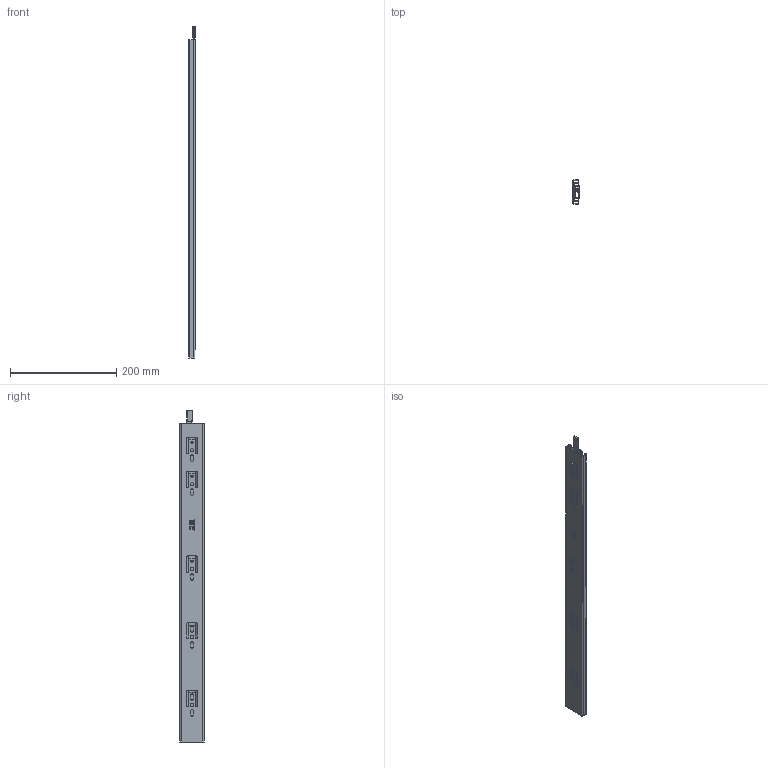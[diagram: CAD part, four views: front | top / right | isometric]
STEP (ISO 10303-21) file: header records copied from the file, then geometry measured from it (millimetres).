
FILE_DESCRIPTION (( 'STEP AP214' ), '1' );
FILE_NAME ('DSCHLD600MML-CLOSED.STEP', '2018-11-28T08:43:15', ( '' ), ( '' ), 'SwSTEP 2.0', 'SolidWorks 2017', '' );
FILE_SCHEMA (( 'AUTOMOTIVE_DESIGN' ));
Length unit declared in the file: millimetre
Products named in the file (5): DSCHLDL-1_600; DSCHLDL-3_600; DSCHLDL-4; DSCHLD600MML-CLOSED; DSCHLDL-2_600
Assembly tree (4 placements, depth 2):
  DSCHLD600MML-CLOSED
    DSCHLDL-3_600
    DSCHLDL-2_600
    DSCHLDL-1_600
    DSCHLDL-4
Bounding box: 12.71 x 45.5 x 626.1 mm (x, y, z)
Volume: 114037.8 mm3; surface area: 187093 mm2
Topology: 4 solids, 4 shells, 878 faces, 2396 edges, 1588 vertices
Faces by surface type: plane 498, bspline 237, cylinder 135, torus 4, sphere 4
Entity records: 29728 total; most frequent: CARTESIAN_POINT 8294, ORIENTED_EDGE 4784, DIRECTION 3490, EDGE_CURVE 2392, VECTOR 1642, LINE 1642, VERTEX_POINT 1588, EDGE_LOOP 1006
